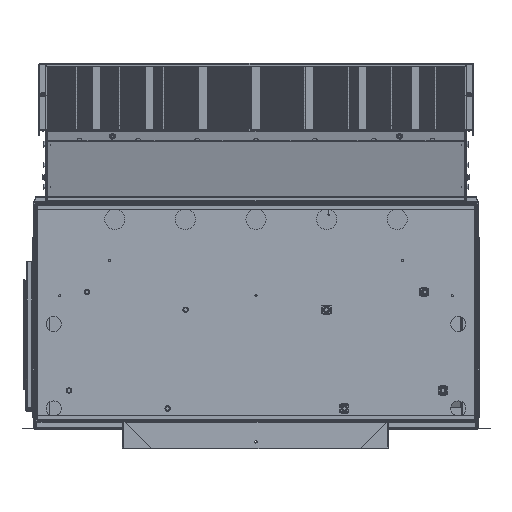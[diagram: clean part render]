
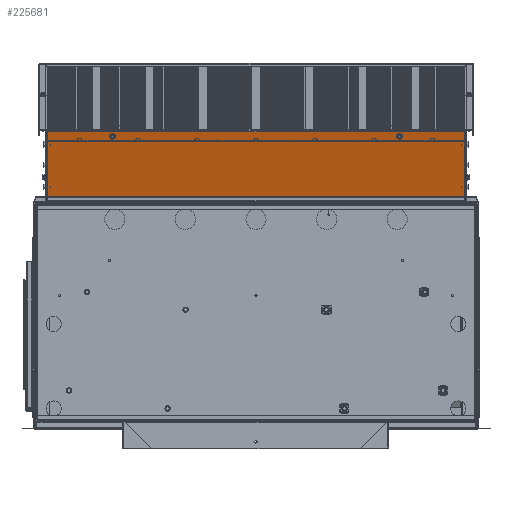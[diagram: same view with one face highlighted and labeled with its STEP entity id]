
A CAD part, front view. The second image highlights one B-rep face of the part: STEP entity #225681.
In plain terms, the highlighted planar face has unit normal (0, -0.965, -0.262).
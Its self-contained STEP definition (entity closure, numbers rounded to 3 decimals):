
#12618 = PLANE ( 'NONE',  #155120 ) ;
#13044 = VERTEX_POINT ( 'NONE', #153116 ) ;
#14220 = CARTESIAN_POINT ( 'NONE',  ( -27.185, -46.035, 21.311 ) ) ;
#23108 = CARTESIAN_POINT ( 'NONE',  ( -0.797, -44.724, 16.472 ) ) ;
#30248 = DIRECTION ( 'NONE',  ( 0., -0.262, 0.965 ) ) ;
#31850 = DIRECTION ( 'NONE',  ( 0., 0.262, -0.965 ) ) ;
#32138 = DIRECTION ( 'NONE',  ( 0., -0.262, 0.965 ) ) ;
#33554 = AXIS2_PLACEMENT_3D ( 'NONE', #190432, #85609, #208047 ) ;
#35009 = VECTOR ( 'NONE', #218363, 39.37 ) ;
#35659 = DIRECTION ( 'NONE',  ( 0., 0.965, 0.262 ) ) ;
#37172 = ORIENTED_EDGE ( 'NONE', *, *, #211693, .F. ) ;
#38330 = ORIENTED_EDGE ( 'NONE', *, *, #177735, .F. ) ;
#40282 = ORIENTED_EDGE ( 'NONE', *, *, #80949, .T. ) ;
#44273 = VERTEX_POINT ( 'NONE', #59810 ) ;
#48195 = CIRCLE ( 'NONE', #213899, 0.125 ) ;
#50310 = ORIENTED_EDGE ( 'NONE', *, *, #165054, .T. ) ;
#55280 = VERTEX_POINT ( 'NONE', #135525 ) ;
#56169 = FACE_BOUND ( 'NONE', #211174, .T. ) ;
#56501 = CARTESIAN_POINT ( 'NONE',  ( -5.73, -46.035, 21.311 ) ) ;
#59810 = CARTESIAN_POINT ( 'NONE',  ( -32.034, -44.724, 16.472 ) ) ;
#61467 = CIRCLE ( 'NONE', #197597, 0.125 ) ;
#68422 = AXIS2_PLACEMENT_3D ( 'NONE', #14220, #136644, #31850 ) ;
#73999 = DIRECTION ( 'NONE',  ( 0., 0.262, -0.965 ) ) ;
#78441 = ORIENTED_EDGE ( 'NONE', *, *, #92317, .F. ) ;
#78662 = VECTOR ( 'NONE', #215295, 39.37 ) ;
#79272 = LINE ( 'NONE', #23108, #114810 ) ;
#80044 = CARTESIAN_POINT ( 'NONE',  ( -27.185, -46.002, 21.19 ) ) ;
#80949 = EDGE_CURVE ( 'NONE', #170183, #165294, #137956, .T. ) ;
#82969 = CARTESIAN_POINT ( 'NONE',  ( -5.73, -46.002, 21.19 ) ) ;
#85609 = DIRECTION ( 'NONE',  ( 0., 0.965, 0.262 ) ) ;
#92317 = EDGE_CURVE ( 'NONE', #94265, #44273, #79272, .T. ) ;
#92852 = CARTESIAN_POINT ( 'NONE',  ( -0.881, -44.707, 16.41 ) ) ;
#94265 = VERTEX_POINT ( 'NONE', #104789 ) ;
#96920 = DIRECTION ( 'NONE',  ( 0., 0.965, 0.262 ) ) ;
#99567 = CARTESIAN_POINT ( 'NONE',  ( -32.034, -44.707, 16.41 ) ) ;
#104789 = CARTESIAN_POINT ( 'NONE',  ( -0.881, -44.724, 16.472 ) ) ;
#112529 = EDGE_LOOP ( 'NONE', ( #190682, #50310 ) ) ;
#113482 = VERTEX_POINT ( 'NONE', #192078 ) ;
#113552 = CARTESIAN_POINT ( 'NONE',  ( -0.797, -46.149, 21.734 ) ) ;
#114685 = VERTEX_POINT ( 'NONE', #82969 ) ;
#114810 = VECTOR ( 'NONE', #198368, 39.37 ) ;
#124236 = CARTESIAN_POINT ( 'NONE',  ( -27.185, -46.067, 21.432 ) ) ;
#125130 = LINE ( 'NONE', #92852, #78662 ) ;
#128128 = LINE ( 'NONE', #113552, #35009 ) ;
#131486 = EDGE_CURVE ( 'NONE', #165294, #170183, #61467, .T. ) ;
#135525 = CARTESIAN_POINT ( 'NONE',  ( -32.034, -46.149, 21.734 ) ) ;
#136644 = DIRECTION ( 'NONE',  ( 0., 0.965, 0.262 ) ) ;
#137956 = CIRCLE ( 'NONE', #68422, 0.125 ) ;
#140455 = CARTESIAN_POINT ( 'NONE',  ( -27.185, -46.035, 21.311 ) ) ;
#143389 = LINE ( 'NONE', #99567, #225461 ) ;
#143633 = FACE_OUTER_BOUND ( 'NONE', #152929, .T. ) ;
#150490 = CIRCLE ( 'NONE', #33554, 0.125 ) ;
#152929 = EDGE_LOOP ( 'NONE', ( #37172, #78441, #190685, #38330 ) ) ;
#153116 = CARTESIAN_POINT ( 'NONE',  ( -5.73, -46.067, 21.432 ) ) ;
#155120 = AXIS2_PLACEMENT_3D ( 'NONE', #222284, #96920, #30248 ) ;
#158050 = DIRECTION ( 'NONE',  ( 0., 0.262, -0.965 ) ) ;
#163023 = ORIENTED_EDGE ( 'NONE', *, *, #131486, .T. ) ;
#165054 = EDGE_CURVE ( 'NONE', #13044, #114685, #48195, .T. ) ;
#165294 = VERTEX_POINT ( 'NONE', #80044 ) ;
#170183 = VERTEX_POINT ( 'NONE', #124236 ) ;
#177735 = EDGE_CURVE ( 'NONE', #55280, #113482, #128128, .T. ) ;
#178844 = DIRECTION ( 'NONE',  ( 0., 0.965, 0.262 ) ) ;
#185248 = EDGE_CURVE ( 'NONE', #113482, #94265, #125130, .T. ) ;
#190218 = FACE_BOUND ( 'NONE', #112529, .T. ) ;
#190432 = CARTESIAN_POINT ( 'NONE',  ( -5.73, -46.035, 21.311 ) ) ;
#190682 = ORIENTED_EDGE ( 'NONE', *, *, #192929, .T. ) ;
#190685 = ORIENTED_EDGE ( 'NONE', *, *, #185248, .F. ) ;
#192078 = CARTESIAN_POINT ( 'NONE',  ( -0.881, -46.149, 21.734 ) ) ;
#192929 = EDGE_CURVE ( 'NONE', #114685, #13044, #150490, .T. ) ;
#197597 = AXIS2_PLACEMENT_3D ( 'NONE', #140455, #35659, #158050 ) ;
#198368 = DIRECTION ( 'NONE',  ( -1., 0., 0. ) ) ;
#208047 = DIRECTION ( 'NONE',  ( 0., 0.262, -0.965 ) ) ;
#211174 = EDGE_LOOP ( 'NONE', ( #163023, #40282 ) ) ;
#211693 = EDGE_CURVE ( 'NONE', #44273, #55280, #143389, .T. ) ;
#213899 = AXIS2_PLACEMENT_3D ( 'NONE', #56501, #178844, #73999 ) ;
#215295 = DIRECTION ( 'NONE',  ( 0., 0.262, -0.965 ) ) ;
#218363 = DIRECTION ( 'NONE',  ( 1., 0., 0. ) ) ;
#222284 = CARTESIAN_POINT ( 'NONE',  ( -0.797, -44.707, 16.41 ) ) ;
#225461 = VECTOR ( 'NONE', #32138, 39.37 ) ;
#225681 = ADVANCED_FACE ( 'NONE', ( #56169, #190218, #143633 ), #12618, .F. ) ;
